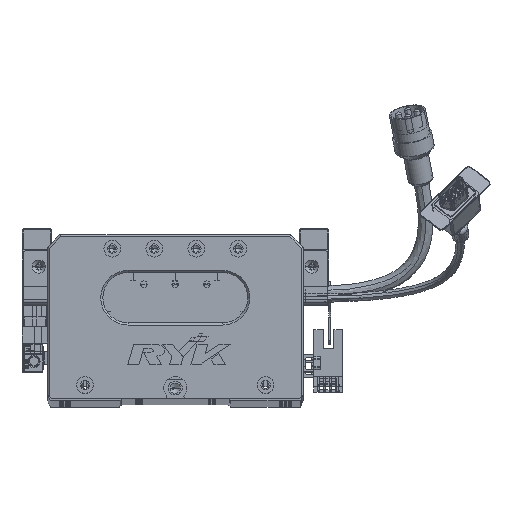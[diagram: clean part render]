
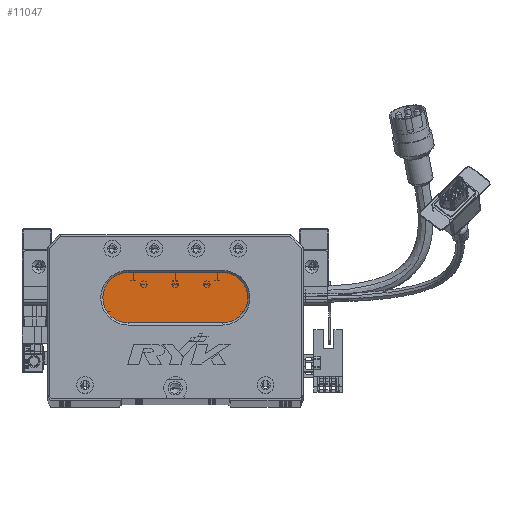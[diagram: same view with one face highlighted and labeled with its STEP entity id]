
A CAD part, top view. The second image highlights one B-rep face of the part: STEP entity #11047.
In plain terms, the highlighted planar face has unit normal (0, 0, 1) as drawn and (0, 0, -1) by its records, which use the part's own axes.
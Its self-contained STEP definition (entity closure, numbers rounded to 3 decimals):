
#34 = CARTESIAN_POINT ( 'NONE',  ( 83.5, 48., 13. ) ) ;
#359 = DIRECTION ( 'NONE',  ( -1., 0., 0. ) ) ;
#2160 = CIRCLE ( 'NONE', #40458, 12. ) ;
#4512 = DIRECTION ( 'NONE',  ( -1., 0., 0. ) ) ;
#7045 = ORIENTED_EDGE ( 'NONE', *, *, #39733, .T. ) ;
#7362 = VERTEX_POINT ( 'NONE', #59418 ) ;
#7769 = PLANE ( 'NONE',  #74382 ) ;
#9383 = CARTESIAN_POINT ( 'NONE',  ( 38.5, 48., 13. ) ) ;
#11047 = ADVANCED_FACE ( 'NONE', ( #42787 ), #7769, .T. ) ;
#11171 = LINE ( 'NONE', #29524, #37450 ) ;
#14215 = DIRECTION ( 'NONE',  ( 1., 0., 0. ) ) ;
#14503 = DIRECTION ( 'NONE',  ( -1., 0., 0. ) ) ;
#26039 = DIRECTION ( 'NONE',  ( -1., 0., 0. ) ) ;
#27233 = CARTESIAN_POINT ( 'NONE',  ( 83.5, 48., 13. ) ) ;
#27773 = AXIS2_PLACEMENT_3D ( 'NONE', #9383, #72453, #26039 ) ;
#29524 = CARTESIAN_POINT ( 'NONE',  ( 83.5, 36., 13. ) ) ;
#35135 = CIRCLE ( 'NONE', #85993, 12. ) ;
#36298 = CARTESIAN_POINT ( 'NONE',  ( 83.5, 36., 13. ) ) ;
#37450 = VECTOR ( 'NONE', #14503, 1000. ) ;
#39733 = EDGE_CURVE ( 'NONE', #65428, #40315, #86402, .T. ) ;
#40315 = VERTEX_POINT ( 'NONE', #73038 ) ;
#40437 = DIRECTION ( 'NONE',  ( 0., 0., -1. ) ) ;
#40458 = AXIS2_PLACEMENT_3D ( 'NONE', #63115, #40437, #72134 ) ;
#40494 = EDGE_CURVE ( 'NONE', #40315, #55236, #88582, .T. ) ;
#42180 = ORIENTED_EDGE ( 'NONE', *, *, #88246, .T. ) ;
#42774 = CARTESIAN_POINT ( 'NONE',  ( 83.5, 60., 13. ) ) ;
#42787 = FACE_OUTER_BOUND ( 'NONE', #92525, .T. ) ;
#44379 = ORIENTED_EDGE ( 'NONE', *, *, #67520, .T. ) ;
#50342 = VECTOR ( 'NONE', #14215, 1000. ) ;
#53508 = DIRECTION ( 'NONE',  ( 0., 0., -1. ) ) ;
#55236 = VERTEX_POINT ( 'NONE', #42774 ) ;
#59418 = CARTESIAN_POINT ( 'NONE',  ( 38.5, 36., 13. ) ) ;
#60936 = ORIENTED_EDGE ( 'NONE', *, *, #67383, .T. ) ;
#63115 = CARTESIAN_POINT ( 'NONE',  ( 38.5, 48., 13. ) ) ;
#65428 = VERTEX_POINT ( 'NONE', #71832 ) ;
#67069 = VERTEX_POINT ( 'NONE', #36298 ) ;
#67383 = EDGE_CURVE ( 'NONE', #55236, #67069, #35135, .T. ) ;
#67520 = EDGE_CURVE ( 'NONE', #67069, #7362, #11171, .T. ) ;
#71832 = CARTESIAN_POINT ( 'NONE',  ( 26.5, 48., 13. ) ) ;
#72134 = DIRECTION ( 'NONE',  ( -1., 0., 0. ) ) ;
#72453 = DIRECTION ( 'NONE',  ( 0., 0., -1. ) ) ;
#73038 = CARTESIAN_POINT ( 'NONE',  ( 38.5, 60., 13. ) ) ;
#74382 = AXIS2_PLACEMENT_3D ( 'NONE', #34, #53508, #359 ) ;
#81745 = ORIENTED_EDGE ( 'NONE', *, *, #40494, .T. ) ;
#85993 = AXIS2_PLACEMENT_3D ( 'NONE', #27233, #96977, #4512 ) ;
#86402 = CIRCLE ( 'NONE', #27773, 12. ) ;
#88246 = EDGE_CURVE ( 'NONE', #7362, #65428, #2160, .T. ) ;
#88582 = LINE ( 'NONE', #99020, #50342 ) ;
#92525 = EDGE_LOOP ( 'NONE', ( #60936, #44379, #42180, #7045, #81745 ) ) ;
#96977 = DIRECTION ( 'NONE',  ( 0., 0., -1. ) ) ;
#99020 = CARTESIAN_POINT ( 'NONE',  ( 83.5, 60., 13. ) ) ;
